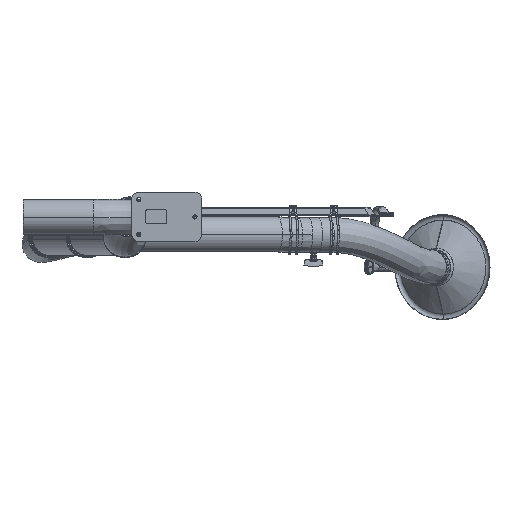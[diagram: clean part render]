
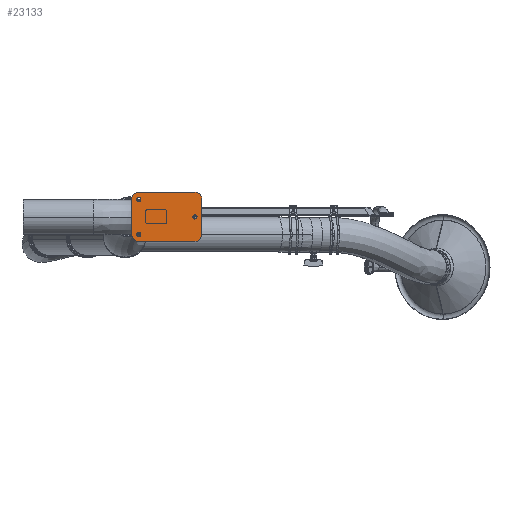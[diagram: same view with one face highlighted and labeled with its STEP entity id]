
A CAD part, left-side view. The second image highlights one B-rep face of the part: STEP entity #23133.
In plain terms, the highlighted planar face has unit normal (-1, 0, 0).
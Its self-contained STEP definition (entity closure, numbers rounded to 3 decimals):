
#22067=CARTESIAN_POINT('',(-400.,50.15,50.));
#22068=DIRECTION('',(-1.,0.,0.));
#22069=DIRECTION('',(0.,0.,1.));
#22070=AXIS2_PLACEMENT_3D('',#22067,#22068,#22069);
#22075=DIRECTION('',(0.,1.,0.));
#22076=VECTOR('',#22075,160.);
#22077=CARTESIAN_POINT('',(-400.,-109.85,70.));
#22078=LINE('',#22077,#22076);
#22082=CARTESIAN_POINT('',(-400.,-109.85,50.));
#22083=DIRECTION('',(-1.,0.,0.));
#22084=DIRECTION('',(0.,-1.,0.));
#22085=AXIS2_PLACEMENT_3D('',#22082,#22083,#22084);
#22090=DIRECTION('',(0.,0.,1.));
#22091=VECTOR('',#22090,100.);
#22092=CARTESIAN_POINT('',(-400.,-129.85,-50.));
#22093=LINE('',#22092,#22091);
#22097=CARTESIAN_POINT('',(-400.,-109.85,-50.));
#22098=DIRECTION('',(-1.,0.,0.));
#22099=DIRECTION('',(0.,0.,-1.));
#22100=AXIS2_PLACEMENT_3D('',#22097,#22098,#22099);
#22105=DIRECTION('',(0.,-1.,0.));
#22106=VECTOR('',#22105,160.);
#22107=CARTESIAN_POINT('',(-400.,50.15,-70.));
#22108=LINE('',#22107,#22106);
#22112=CARTESIAN_POINT('',(-400.,50.15,-50.));
#22113=DIRECTION('',(-1.,0.,0.));
#22114=DIRECTION('',(0.,1.,0.));
#22115=AXIS2_PLACEMENT_3D('',#22112,#22113,#22114);
#22120=DIRECTION('',(0.,0.,-1.));
#22121=VECTOR('',#22120,100.);
#22122=CARTESIAN_POINT('',(-400.,70.15,50.));
#22123=LINE('',#22122,#22121);
#22127=CARTESIAN_POINT('',(-400.,-109.85,0.));
#22128=DIRECTION('',(1.,0.,0.));
#22129=DIRECTION('',(0.,0.,1.));
#22130=AXIS2_PLACEMENT_3D('',#22127,#22128,#22129);
#22135=CARTESIAN_POINT('',(-400.,-109.85,0.));
#22136=DIRECTION('',(1.,0.,0.));
#22137=DIRECTION('',(0.,0.,-1.));
#22138=AXIS2_PLACEMENT_3D('',#22135,#22136,#22137);
#22143=CARTESIAN_POINT('',(-400.,50.15,50.));
#22144=DIRECTION('',(1.,0.,0.));
#22145=DIRECTION('',(0.,0.,1.));
#22146=AXIS2_PLACEMENT_3D('',#22143,#22144,#22145);
#22151=CARTESIAN_POINT('',(-400.,50.15,50.));
#22152=DIRECTION('',(1.,0.,0.));
#22153=DIRECTION('',(0.,0.,-1.));
#22154=AXIS2_PLACEMENT_3D('',#22151,#22152,#22153);
#22159=CARTESIAN_POINT('',(-400.,50.15,-50.));
#22160=DIRECTION('',(1.,0.,0.));
#22161=DIRECTION('',(0.,0.,1.));
#22162=AXIS2_PLACEMENT_3D('',#22159,#22160,#22161);
#22167=CARTESIAN_POINT('',(-400.,50.15,-50.));
#22168=DIRECTION('',(1.,0.,0.));
#22169=DIRECTION('',(0.,0.,-1.));
#22170=AXIS2_PLACEMENT_3D('',#22167,#22168,#22169);
#22552=CARTESIAN_POINT('',(-400.,50.15,-44.));
#22553=CARTESIAN_POINT('',(-400.,50.15,-56.));
#22554=VERTEX_POINT('',#22552);
#22555=VERTEX_POINT('',#22553);
#22556=CARTESIAN_POINT('',(-400.,50.15,56.));
#22557=CARTESIAN_POINT('',(-400.,50.15,44.));
#22558=VERTEX_POINT('',#22556);
#22559=VERTEX_POINT('',#22557);
#22560=CARTESIAN_POINT('',(-400.,-109.85,6.));
#22561=CARTESIAN_POINT('',(-400.,-109.85,-6.));
#22562=VERTEX_POINT('',#22560);
#22563=VERTEX_POINT('',#22561);
#22564=CARTESIAN_POINT('',(-400.,50.15,70.));
#22565=CARTESIAN_POINT('',(-400.,70.15,50.));
#22566=VERTEX_POINT('',#22564);
#22567=VERTEX_POINT('',#22565);
#22568=CARTESIAN_POINT('',(-400.,70.15,-50.));
#22569=VERTEX_POINT('',#22568);
#22570=CARTESIAN_POINT('',(-400.,50.15,-70.));
#22571=VERTEX_POINT('',#22570);
#22572=CARTESIAN_POINT('',(-400.,-109.85,-70.));
#22573=VERTEX_POINT('',#22572);
#22574=CARTESIAN_POINT('',(-400.,-129.85,-50.));
#22575=VERTEX_POINT('',#22574);
#22576=CARTESIAN_POINT('',(-400.,-129.85,50.));
#22577=VERTEX_POINT('',#22576);
#22578=CARTESIAN_POINT('',(-400.,-109.85,70.));
#22579=VERTEX_POINT('',#22578);
#23093=CARTESIAN_POINT('',(-400.,0.,-25.));
#23094=DIRECTION('',(-1.,0.,0.));
#23095=DIRECTION('',(0.,0.,1.));
#23096=AXIS2_PLACEMENT_3D('',#23093,#23094,#23095);
#23097=PLANE('',#23096);
#23098=ORIENTED_EDGE('',*,*,#23083,.F.);
#23100=ORIENTED_EDGE('',*,*,#23099,.F.);
#23102=ORIENTED_EDGE('',*,*,#23101,.F.);
#23104=ORIENTED_EDGE('',*,*,#23103,.F.);
#23106=ORIENTED_EDGE('',*,*,#23105,.F.);
#23108=ORIENTED_EDGE('',*,*,#23107,.F.);
#23110=ORIENTED_EDGE('',*,*,#23109,.F.);
#23112=ORIENTED_EDGE('',*,*,#23111,.F.);
#23113=EDGE_LOOP('',(#23098,#23100,#23102,#23104,#23106,#23108,#23110,#23112));
#23114=FACE_OUTER_BOUND('',#23113,.F.);
#23116=ORIENTED_EDGE('',*,*,#23115,.F.);
#23118=ORIENTED_EDGE('',*,*,#23117,.F.);
#23119=EDGE_LOOP('',(#23116,#23118));
#23120=FACE_BOUND('',#23119,.F.);
#23122=ORIENTED_EDGE('',*,*,#23121,.F.);
#23124=ORIENTED_EDGE('',*,*,#23123,.F.);
#23125=EDGE_LOOP('',(#23122,#23124));
#23126=FACE_BOUND('',#23125,.F.);
#23128=ORIENTED_EDGE('',*,*,#23127,.F.);
#23130=ORIENTED_EDGE('',*,*,#23129,.F.);
#23131=EDGE_LOOP('',(#23128,#23130));
#23132=FACE_BOUND('',#23131,.F.);
#22071=CIRCLE('',#22070,20.);
#22086=CIRCLE('',#22085,20.);
#22101=CIRCLE('',#22100,20.);
#22116=CIRCLE('',#22115,20.);
#22131=CIRCLE('',#22130,6.);
#22139=CIRCLE('',#22138,6.);
#22147=CIRCLE('',#22146,6.);
#22155=CIRCLE('',#22154,6.);
#22163=CIRCLE('',#22162,6.);
#22171=CIRCLE('',#22170,6.);
#23083=EDGE_CURVE('',#22566,#22567,#22071,.T.);
#23099=EDGE_CURVE('',#22579,#22566,#22078,.T.);
#23101=EDGE_CURVE('',#22577,#22579,#22086,.T.);
#23103=EDGE_CURVE('',#22575,#22577,#22093,.T.);
#23105=EDGE_CURVE('',#22573,#22575,#22101,.T.);
#23107=EDGE_CURVE('',#22571,#22573,#22108,.T.);
#23109=EDGE_CURVE('',#22569,#22571,#22116,.T.);
#23111=EDGE_CURVE('',#22567,#22569,#22123,.T.);
#23115=EDGE_CURVE('',#22562,#22563,#22131,.T.);
#23117=EDGE_CURVE('',#22563,#22562,#22139,.T.);
#23121=EDGE_CURVE('',#22558,#22559,#22147,.T.);
#23123=EDGE_CURVE('',#22559,#22558,#22155,.T.);
#23127=EDGE_CURVE('',#22554,#22555,#22163,.T.);
#23129=EDGE_CURVE('',#22555,#22554,#22171,.T.);
#23133=ADVANCED_FACE('',(#23114,#23120,#23126,#23132),#23097,.T.);
